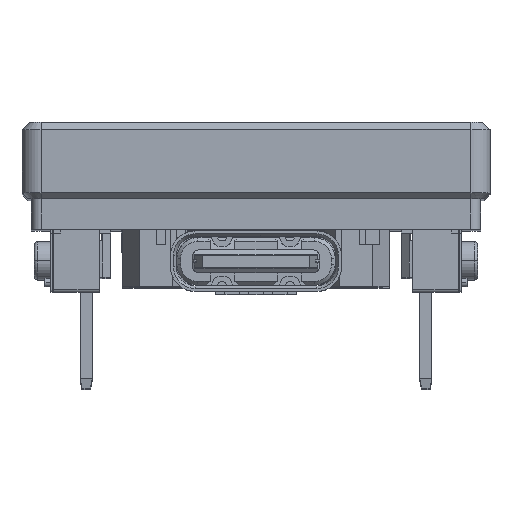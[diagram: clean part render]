
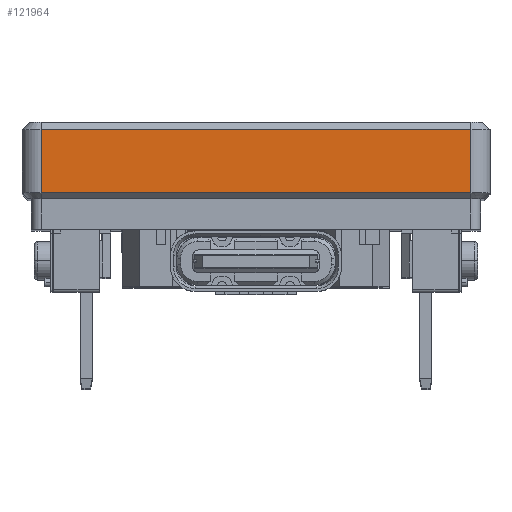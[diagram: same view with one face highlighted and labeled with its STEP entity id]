
A CAD part, top view. The second image highlights one B-rep face of the part: STEP entity #121964.
In plain terms, the highlighted planar face has unit normal (0, 0, 1).
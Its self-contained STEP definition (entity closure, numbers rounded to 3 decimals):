
#118179=DIRECTION('',(0.,1.,0.));
#118180=VECTOR('',#118179,3.3);
#118181=CARTESIAN_POINT('',(11.25,-2.8,33.04));
#118182=LINE('',#118181,#118180);
#118193=DIRECTION('',(1.,0.,0.));
#118194=VECTOR('',#118193,22.5);
#118195=CARTESIAN_POINT('',(-11.25,-2.8,33.04));
#118196=LINE('',#118195,#118194);
#118207=DIRECTION('',(0.,-1.,0.));
#118208=VECTOR('',#118207,3.3);
#118209=CARTESIAN_POINT('',(-11.25,0.5,33.04));
#118210=LINE('',#118209,#118208);
#118404=DIRECTION('',(1.,0.,0.));
#118405=VECTOR('',#118404,22.5);
#118406=CARTESIAN_POINT('',(-11.25,0.5,33.04));
#118407=LINE('',#118406,#118405);
#120937=CARTESIAN_POINT('',(11.25,-2.8,33.04));
#120938=VERTEX_POINT('',#120937);
#120939=CARTESIAN_POINT('',(-11.25,-2.8,33.04));
#120940=VERTEX_POINT('',#120939);
#120955=CARTESIAN_POINT('',(11.25,0.5,33.04));
#120956=VERTEX_POINT('',#120955);
#120957=CARTESIAN_POINT('',(-11.25,0.5,33.04));
#120958=VERTEX_POINT('',#120957);
#121951=CARTESIAN_POINT('',(0.,-1.15,33.04));
#121952=DIRECTION('',(0.,0.,1.));
#121953=DIRECTION('',(1.,0.,0.));
#121954=AXIS2_PLACEMENT_3D('',#121951,#121952,#121953);
#121955=PLANE('',#121954);
#121956=ORIENTED_EDGE('',*,*,#121770,.F.);
#121958=ORIENTED_EDGE('',*,*,#121957,.F.);
#121960=ORIENTED_EDGE('',*,*,#121959,.T.);
#121961=ORIENTED_EDGE('',*,*,#121936,.F.);
#121962=EDGE_LOOP('',(#121956,#121958,#121960,#121961));
#121963=FACE_OUTER_BOUND('',#121962,.F.);
#121964=ADVANCED_FACE('',(#121963),#121955,.T.);
#121770=EDGE_CURVE('',#120940,#120938,#118196,.T.);
#121936=EDGE_CURVE('',#120938,#120956,#118182,.T.);
#121957=EDGE_CURVE('',#120958,#120940,#118210,.T.);
#121959=EDGE_CURVE('',#120958,#120956,#118407,.T.);
